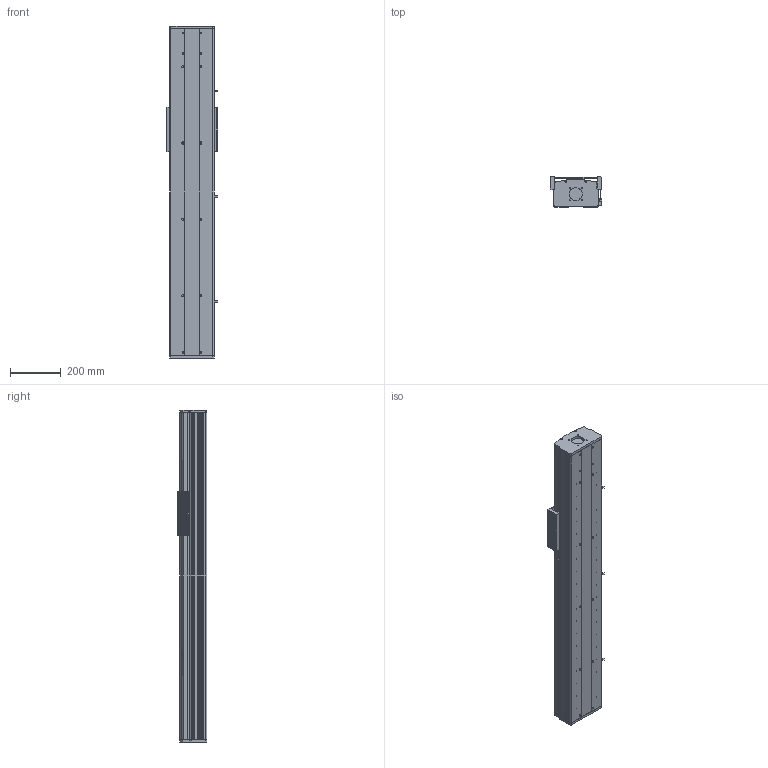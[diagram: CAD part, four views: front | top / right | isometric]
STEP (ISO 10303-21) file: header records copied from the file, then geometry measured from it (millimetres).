
FILE_DESCRIPTION (( 'STEP AP203' ), '1' );
FILE_NAME ('CF175B-C-950-FW.STEP', '2020-07-15T01:55:43', ( 'Micorosoft' ), ( 'Micorosoft' ), 'SwSTEP 2.0', 'SolidWorks 2016', '' );
FILE_SCHEMA (( 'CONFIG_CONTROL_DESIGN' ));
Length unit declared in the file: millimetre
Products named in the file (12): 75-86-95癹弇羲壽覜茼え; CF-EGH20CA賑輸; 175-2耜啣; 175B珨极嘐隅釱; 175-2盓傅釱; 嫖萇羲壽; CF175-2蹟譫釱; CF175B-C-950-FW; 175B裔啣-950; 175B臏倰第-950; EGR20絳寢-950; CF175-2賑雄啣
Assembly tree (17 placements, depth 2):
  CF175B-C-950-FW
    175-2耜啣
    175-2盓傅釱
    CF175-2蹟譫釱
    175B裔啣-950
    175B臏倰第-950
    EGR20絳寢-950  x2
    CF175-2賑雄啣
    75-86-95癹弇羲壽覜茼え
    CF-EGH20CA賑輸  x4
    175B珨极嘐隅釱
    嫖萇羲壽  x3
Bounding box: 201.1 x 116.8 x 1305 mm (x, y, z)
Volume: 9766506.7 mm3; surface area: 2592862.8 mm2
Topology: 23 solids, 23 shells, 1463 faces, 3798 edges, 2524 vertices
Faces by surface type: plane 737, cylinder 720, cone 4, bspline 2
Entity records: 35134 total; most frequent: DIRECTION 6089, CARTESIAN_POINT 5927, ORIENTED_EDGE 5560, EDGE_CURVE 2780, AXIS2_PLACEMENT_3D 2250, VERTEX_POINT 1848, LINE 1589, VECTOR 1589
